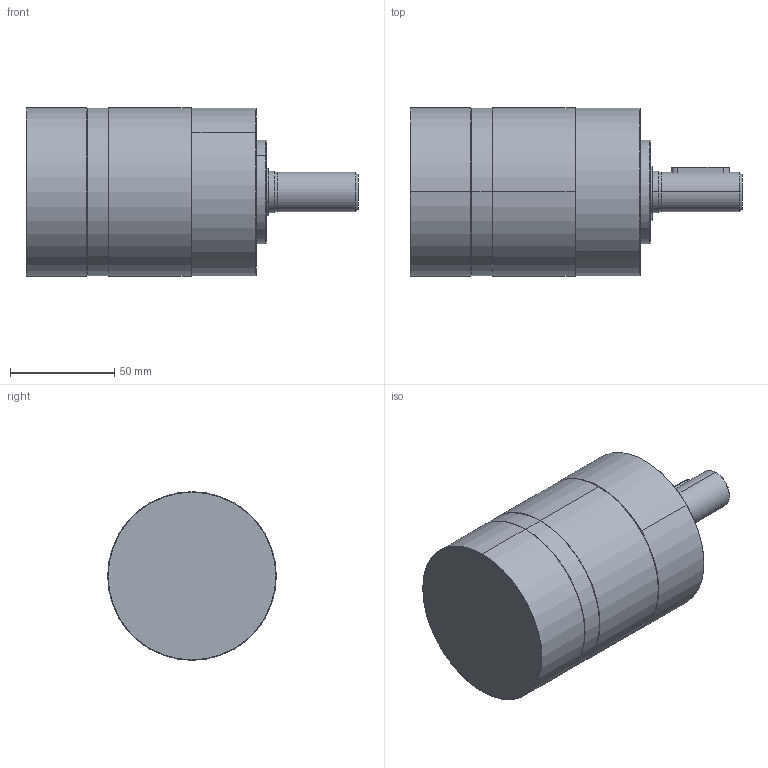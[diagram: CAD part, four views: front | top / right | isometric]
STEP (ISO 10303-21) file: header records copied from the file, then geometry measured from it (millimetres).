
FILE_DESCRIPTION (( 'STEP AP203' ), '1' );
FILE_NAME ('PI81-2.STEP', '2013-11-27T16:25:02', ( '' ), ( '' ), 'SwSTEP 2.0', 'SolidWorks 2012', '' );
FILE_SCHEMA (( 'CONFIG_CONTROL_DESIGN' ));
Length unit declared in the file: millimetre
Products named in the file (2): PI81-2; Group1^Baugruppe76_01
Assembly tree (1 placements, depth 2):
  PI81-2
    Group1^Baugruppe76_01
Bounding box: 159.5 x 81 x 81 mm (x, y, z)
Volume: 614393.4 mm3; surface area: 60840.1 mm2
Topology: 5 solids, 5 shells, 167 faces, 352 edges, 207 vertices
Faces by surface type: cylinder 72, cone 54, plane 33, torus 8
Entity records: 4598 total; most frequent: DIRECTION 882, CARTESIAN_POINT 720, ORIENTED_EDGE 684, AXIS2_PLACEMENT_3D 369, EDGE_CURVE 342, VERTEX_POINT 207, CIRCLE 198, EDGE_LOOP 189
